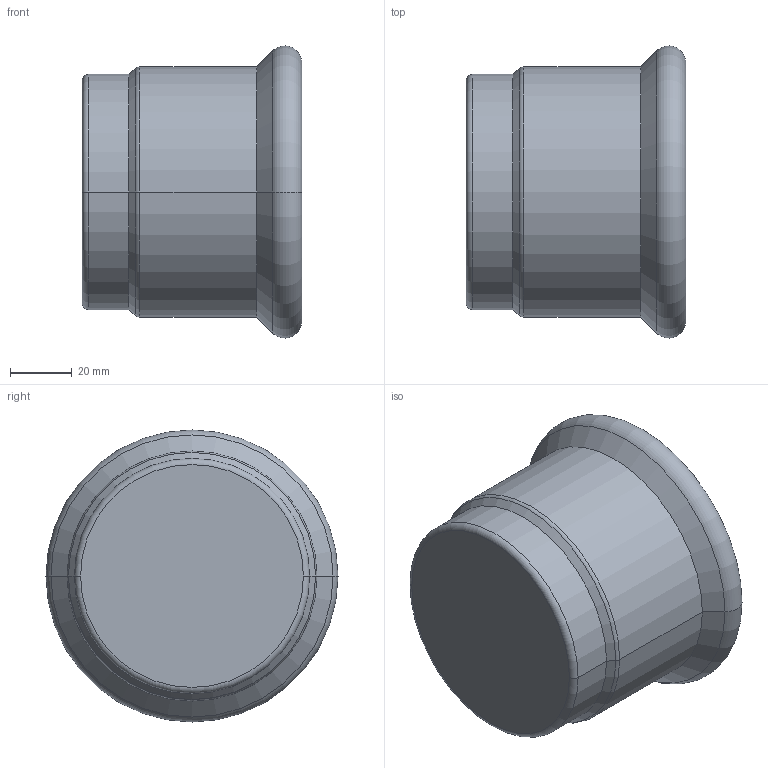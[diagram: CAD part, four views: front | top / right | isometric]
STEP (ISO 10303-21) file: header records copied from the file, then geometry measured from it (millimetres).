
FILE_DESCRIPTION(('CoCreate Modeling STEP Export'),'2;1');
FILE_NAME('C1429 76.1.stp','2014-11-12T16:11:41',(''),(''),'CoCreate Modeling STEP processor for AP214 (Solid Model)','CoCreate Modeling 17.00A 17-Jun-2010 (C) Parametric Technology GmbH','');
FILE_SCHEMA(('AUTOMOTIVE_DESIGN { 1 0 10303 214 1 1 1 1 }'));
Length unit declared in the file: millimetre
Products named in the file (2): C1429_76
Assembly tree (1 placements, depth 2):
  C1429_76
    C1429_76
Bounding box: 71 x 94.48 x 94.48 mm (x, y, z)
Volume: 62016.3 mm3; surface area: 46299.7 mm2
Topology: 1 solids, 1 shells, 27 faces, 53 edges, 31 vertices
Faces by surface type: cylinder 10, torus 8, plane 5, cone 4
Entity records: 612 total; most frequent: ORIENTED_EDGE 106, DIRECTION 96, CARTESIAN_POINT 86, EDGE_CURVE 53, AXIS2_PLACEMENT_3D 41, VERTEX_POINT 31, EDGE_LOOP 30, FACE_OUTER_BOUND 27
